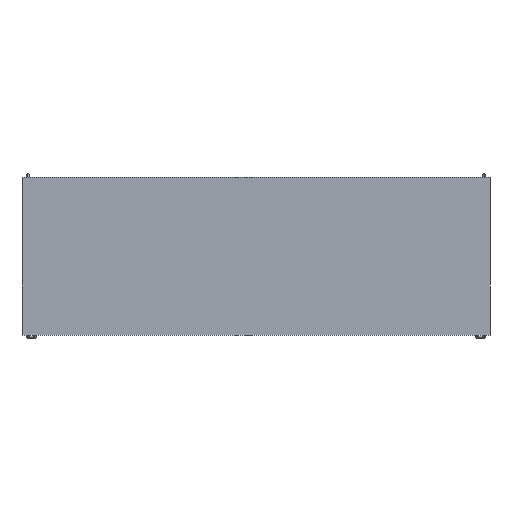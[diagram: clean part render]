
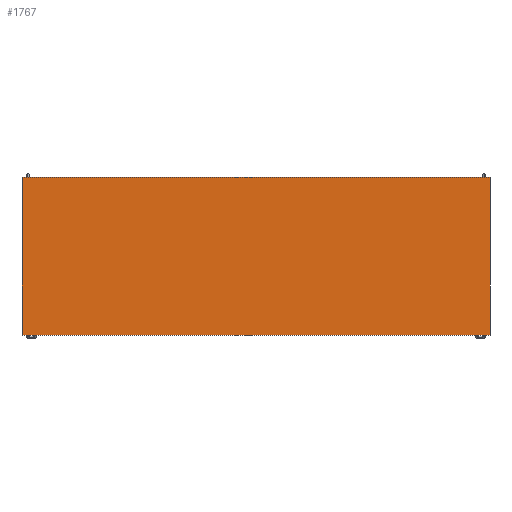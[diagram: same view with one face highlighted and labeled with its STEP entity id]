
A CAD part, front view. The second image highlights one B-rep face of the part: STEP entity #1767.
In plain terms, the highlighted planar face has unit normal (0, -1, 0).
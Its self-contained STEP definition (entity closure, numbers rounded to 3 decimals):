
#35 = EDGE_CURVE ( 'NONE', #76, #192, #1492, .T. ) ;
#74 = CARTESIAN_POINT ( 'NONE',  ( 400., 0., 135. ) ) ;
#76 = VERTEX_POINT ( 'NONE', #1205 ) ;
#82 = VERTEX_POINT ( 'NONE', #873 ) ;
#192 = VERTEX_POINT ( 'NONE', #647 ) ;
#426 = EDGE_CURVE ( 'NONE', #82, #1258, #1217, .T. ) ;
#509 = DIRECTION ( 'NONE',  ( 0., 0., 1. ) ) ;
#529 = DIRECTION ( 'NONE',  ( 0., -1., 0. ) ) ;
#647 = CARTESIAN_POINT ( 'NONE',  ( 400., 0., -135. ) ) ;
#668 = CARTESIAN_POINT ( 'NONE',  ( -400., 0., 135. ) ) ;
#791 = AXIS2_PLACEMENT_3D ( 'NONE', #2023, #529, #1691 ) ;
#803 = DIRECTION ( 'NONE',  ( 1., 0., 0. ) ) ;
#811 = CARTESIAN_POINT ( 'NONE',  ( -400., 0., 135. ) ) ;
#873 = CARTESIAN_POINT ( 'NONE',  ( -400., 0., -135. ) ) ;
#1072 = VECTOR ( 'NONE', #1388, 1000. ) ;
#1130 = CARTESIAN_POINT ( 'NONE',  ( -400., 0., 135. ) ) ;
#1141 = ORIENTED_EDGE ( 'NONE', *, *, #1582, .F. ) ;
#1166 = PLANE ( 'NONE',  #791 ) ;
#1181 = ORIENTED_EDGE ( 'NONE', *, *, #426, .F. ) ;
#1205 = CARTESIAN_POINT ( 'NONE',  ( 400., 0., 135. ) ) ;
#1217 = LINE ( 'NONE', #1130, #1382 ) ;
#1258 = VERTEX_POINT ( 'NONE', #668 ) ;
#1283 = EDGE_LOOP ( 'NONE', ( #2024, #1141, #1181, #1678 ) ) ;
#1382 = VECTOR ( 'NONE', #509, 1000. ) ;
#1388 = DIRECTION ( 'NONE',  ( -1., 0., 0. ) ) ;
#1492 = LINE ( 'NONE', #74, #1828 ) ;
#1582 = EDGE_CURVE ( 'NONE', #1258, #76, #1789, .T. ) ;
#1646 = LINE ( 'NONE', #1717, #1072 ) ;
#1678 = ORIENTED_EDGE ( 'NONE', *, *, #1815, .F. ) ;
#1687 = VECTOR ( 'NONE', #803, 1000. ) ;
#1691 = DIRECTION ( 'NONE',  ( 0., 0., -1. ) ) ;
#1717 = CARTESIAN_POINT ( 'NONE',  ( -400., 0., -135. ) ) ;
#1767 = ADVANCED_FACE ( 'NONE', ( #1994 ), #1166, .T. ) ;
#1789 = LINE ( 'NONE', #811, #1687 ) ;
#1815 = EDGE_CURVE ( 'NONE', #192, #82, #1646, .T. ) ;
#1828 = VECTOR ( 'NONE', #1869, 1000. ) ;
#1869 = DIRECTION ( 'NONE',  ( 0., 0., -1. ) ) ;
#1994 = FACE_OUTER_BOUND ( 'NONE', #1283, .T. ) ;
#2023 = CARTESIAN_POINT ( 'NONE',  ( 0., 0., 0. ) ) ;
#2024 = ORIENTED_EDGE ( 'NONE', *, *, #35, .F. ) ;
